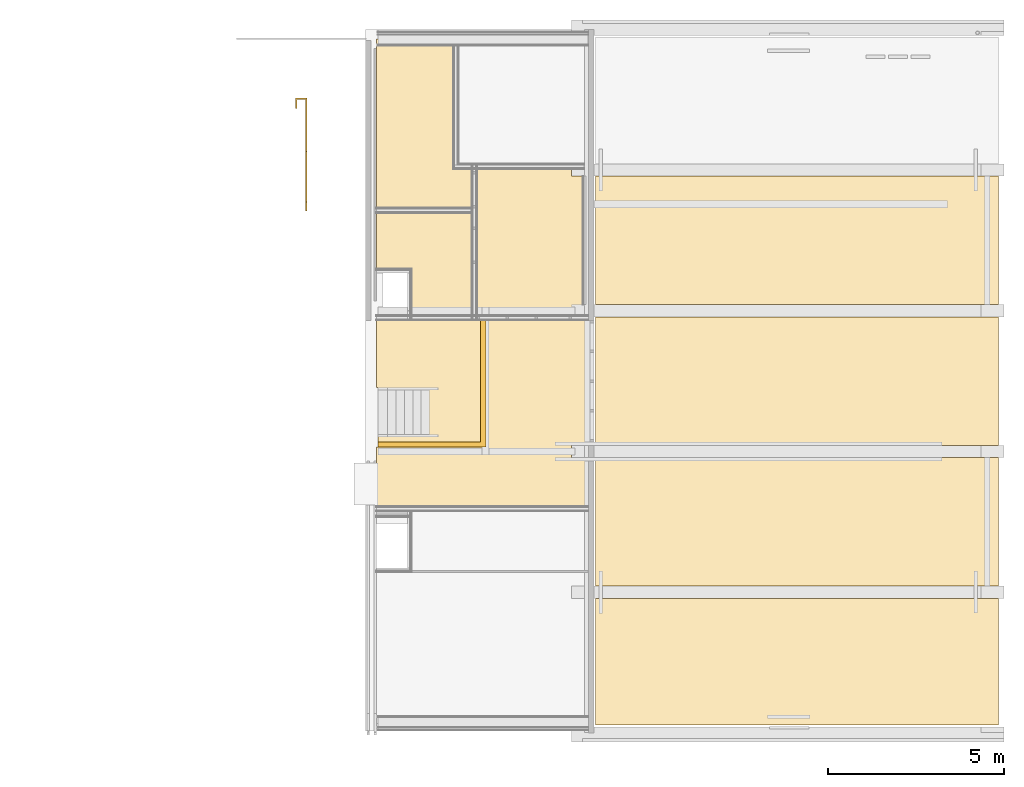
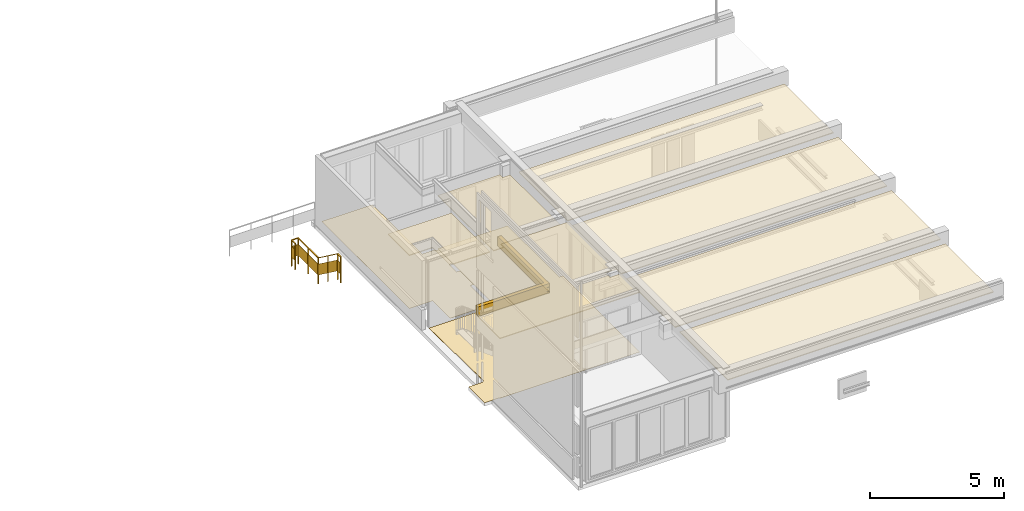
# One storey, part 11 of 13: 10 coverings, 1 railing.
"""IFC2X3 building model written with IfcOpenShell, lengths in millimetres."""

from ifc_helpers import new_model, entity, si_unit, converted_unit, derived_unit, money_unit, direction, frame, origin_with_axes, place, context, subcontext, project, spatial, faceted_brep, material, material_list, type_object, element, save


model = new_model("IFC2X3")

# Units and contexts
model_context = context("Model", 3, precision=0.01, world=origin_with_axes(), true_north=direction((0.0, 1.0)))
body_context = subcontext(model_context, "Body", "Model", "MODEL_VIEW")
ifc_project = project(units=[si_unit("LENGTHUNIT", "METRE", prefix="MILLI"), si_unit("AREAUNIT", "SQUARE_METRE"), si_unit("VOLUMEUNIT", "CUBIC_METRE"), converted_unit("PLANEANGLEUNIT", "DEGREE", entity("IfcPlaneAngleMeasure", 0.0174532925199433), si_unit("PLANEANGLEUNIT", "RADIAN"), dimensions=[0, 0, 0, 0, 0, 0, 0]), money_unit("EUR"), converted_unit("TIMEUNIT", "Year", entity("IfcTimeMeasure", 31557600.0), si_unit("TIMEUNIT", "SECOND"), dimensions=[0, 0, 1, 0, 0, 0, 0]), si_unit("MASSUNIT", "GRAM", prefix="KILO"), si_unit("THERMODYNAMICTEMPERATUREUNIT", "DEGREE_CELSIUS"), si_unit("LUMINOUSINTENSITYUNIT", "LUMEN"), si_unit("ENERGYUNIT", "JOULE", prefix="MEGA"), derived_unit("THERMALCONDUCTANCEUNIT", [(si_unit("POWERUNIT", "WATT"), 1), (si_unit("LENGTHUNIT", "METRE"), -1), (si_unit("THERMODYNAMICTEMPERATUREUNIT", "KELVIN"), -1)]), derived_unit("SPECIFICHEATCAPACITYUNIT", [(si_unit("ENERGYUNIT", "JOULE"), 1), (si_unit("MASSUNIT", "GRAM", prefix="KILO"), -1), (si_unit("THERMODYNAMICTEMPERATUREUNIT", "KELVIN"), -1)]), derived_unit("MASSDENSITYUNIT", [(si_unit("MASSUNIT", "GRAM", prefix="KILO"), 1), (si_unit("VOLUMEUNIT", "CUBIC_METRE"), -1)])], contexts=[model_context])

# Site, building, storey
site_placement = place(None, origin_with_axes())
site = spatial("IfcSite", under=ifc_project, at=site_placement, Name="<site naam>", CompositionType="ELEMENT")
building_placement = place(site_placement, origin_with_axes())
building = spatial("IfcBuilding", under=site, at=building_placement, Name="<Naam gebouw>", CompositionType="ELEMENT")
storey_placement = place(building_placement, frame((0.0, 0.0, 3188.0), z_axis=(0.0, 0.0, 1.0), x_axis=(1.0, 0.0, 0.0)))
storey = spatial("IfcBuildingStorey", under=building, at=storey_placement, Name="01 1e tussenverdieping", CompositionType="ELEMENT", Elevation=3188.0)

# Coverings
ifc_material_1 = material(Name="systeemplafond 600*600 kleur wit")
covering_type_1 = type_object("IfcCoveringType", Name="PA-01a 40", PredefinedType="CEILING")
covering_1_placement = place(storey_placement, frame((52135.00891048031, 14774.99071418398, 2400.0), z_axis=(0.0, 0.0, 1.0), x_axis=(1.0, 0.0, 0.0)))
element("IfcCovering", 1, at=covering_1_placement, inside=storey, type_object=covering_type_1, material=ifc_material_1, Name="45_Vloer_PA-01a", PredefinedType="CEILING", context=body_context, shape_type="Brep", body=[
    faceted_brep([(0.0, 0.0, 40.00000000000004), (0.0, 0.0, 0.0), (0.0, -1587.49071418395, 0.0), (0.0, -1587.49071418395, 40.00000000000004), (2714.802238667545, 0.0, 40.00000000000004), (2714.802238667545, 0.0, 0.0), (2714.802238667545, -2899.990677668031, 0.0), (1002.491089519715, -2899.990677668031, 0.0), (1002.491089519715, -1587.49071418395, 0.0), (1002.491089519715, -1587.49071418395, 40.00000000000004), (1002.491089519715, -2899.990677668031, 40.00000000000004), (2714.802238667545, -2899.990677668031, 40.00000000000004)], [[[0, 1, 2, 3]], [[4, 5, 1, 0]], [[2, 1, 5, 6, 7, 8]], [[3, 2, 8, 9]], [[4, 0, 3, 9, 10, 11]], [[11, 6, 5, 4]], [[10, 7, 6, 11]], [[9, 8, 7, 10]]]),
])
ifc_material_2 = material(Name="systeemplafond 600*600")
covering_type_2 = type_object("IfcCoveringType", Name="PA-01c 40", PredefinedType="CEILING")
covering_2_placement = place(storey_placement, frame((52135.00000877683, 6445.00000000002, 2700.0), z_axis=(0.0, 0.0, 1.0), x_axis=(1.0, 0.0, 0.0)))
element("IfcCovering", 2, at=covering_2_placement, inside=storey, type_object=covering_type_2, material=ifc_material_2, Name="45_Vloer_PA-01c", PredefinedType="CEILING", context=body_context, shape_type="Brep", body=[
    faceted_brep([(0.0, 0.0, 40.00000000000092), (0.0, 0.0, 0.0), (6022.782875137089, 0.0, 0.0), (6022.782875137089, 0.0, 40.00000000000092), (0.0, 1680.018641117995, 40.00000000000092), (0.0, 1680.018641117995, 0.0), (3109.621812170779, 1680.018551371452, 0.0), (3109.621812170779, 5280.000043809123, 0.0), (6022.782875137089, 5280.000043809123, 0.0), (6022.782875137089, 1730.000017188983, 0.0), (5539.999991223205, 1730.000017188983, 0.0), (5539.999991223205, 1379.999999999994, 0.0), (6022.782875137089, 1379.999999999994, 0.0), (6022.782875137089, 1379.999999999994, 40.00000000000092), (5539.999991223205, 1379.999999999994, 40.00000000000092), (5539.999991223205, 1730.000017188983, 40.00000000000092), (6022.782875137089, 1730.000017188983, 40.00000000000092), (6022.782875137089, 5280.000043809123, 40.00000000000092), (3109.621812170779, 5280.000043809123, 40.00000000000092), (3109.621812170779, 1680.018551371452, 40.00000000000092)], [[[0, 1, 2, 3]], [[4, 5, 1, 0]], [[2, 1, 5, 6, 7, 8, 9, 10, 11, 12]], [[3, 2, 12, 13]], [[4, 0, 3, 13, 14, 15, 16, 17, 18, 19]], [[19, 6, 5, 4]], [[18, 7, 6, 19]], [[17, 8, 7, 18]], [[16, 9, 8, 17]], [[15, 10, 9, 16]], [[14, 11, 10, 15]], [[13, 12, 11, 14]]]),
])
covering_3_placement = place(storey_placement, frame((54999.99989500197, 16024.99995671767, 2400.0), z_axis=(0.0, 0.0, 1.0), x_axis=(1.0, 0.0, 0.0)))
element("IfcCovering", 3, at=covering_3_placement, inside=storey, type_object=covering_type_2, material=ifc_material_2, Name="45_Vloer_PA-01c", PredefinedType="CEILING", context=body_context, shape_type="Brep", body=[
    faceted_brep([(0.0, 0.0, 40.00000000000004), (0.0, 0.0, 0.0), (0.0, -4149.999956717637, 0.0), (0.0, -4149.999956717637, 40.00000000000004), (2675.000086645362, 0.0, 40.00000000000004), (2675.000086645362, 0.0, 0.0), (2675.000086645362, -199.9999361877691, 0.0), (3000.000104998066, -199.9999361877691, 0.0), (3000.000104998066, -4149.999956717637, 0.0), (3000.000104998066, -4149.999956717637, 40.00000000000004), (3000.000104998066, -199.9999361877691, 40.00000000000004), (2675.000086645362, -199.9999361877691, 40.00000000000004)], [[[0, 1, 2, 3]], [[4, 5, 1, 0]], [[2, 1, 5, 6, 7, 8]], [[3, 2, 8, 9]], [[4, 0, 3, 9, 10, 11]], [[11, 6, 5, 4]], [[10, 7, 6, 11]], [[9, 8, 7, 10]]]),
])
ifc_material_3 = material(Name="geïntegreerd balvast lamellenplafond")
covering_type_3 = type_object("IfcCoveringType", Name="PA-04 40", PredefinedType="CEILING")
covering_4_placement = place(storey_placement, frame((69842.00005027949, 3825.000144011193, 2406.999999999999), z_axis=(0.0, 0.0, 1.0), x_axis=(1.0, 0.0, 0.0)))
element("IfcCovering", 4, at=covering_4_placement, inside=storey, type_object=covering_type_3, material=ifc_material_3, Name="45_Vloer_PA-04", PredefinedType="CEILING", context=body_context, shape_type="Brep", body=[
    faceted_brep([(-11474.56596596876, -3599.08941146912, 40.00000000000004), (-28.00010985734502, -3599.08941146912, 40.00000000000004), (-28.00010985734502, 0.0, 40.00000000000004), (-11474.56596596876, 0.0, 40.00000000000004), (-11474.56596596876, -3599.08941146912, 0.0), (-28.00010985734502, -3599.08941146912, 0.0), (-28.00010985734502, 0.0, 0.0), (-11474.56596596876, 0.0, 0.0)], [[[0, 1, 2, 3]], [[4, 5, 1, 0]], [[5, 6, 2, 1]], [[3, 2, 6, 7]], [[0, 3, 7, 4]], [[7, 6, 5, 4]]]),
])
covering_5_placement = place(storey_placement, frame((58367.43408431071, 4175.000039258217, 2406.999999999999), z_axis=(0.0, 0.0, 1.0), x_axis=(1.0, 0.0, 0.0)))
element("IfcCovering", 5, at=covering_5_placement, inside=storey, type_object=covering_type_3, material=ifc_material_3, Name="45_Vloer_PA-04", PredefinedType="CEILING", context=body_context, shape_type="Brep", body=[
    faceted_brep([(11446.56585611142, 3649.999951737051, 0.0), (9843.814427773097, 3649.999960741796, 0.0), (9843.814427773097, 3649.999960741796, 40.00000000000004), (11446.56585611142, 3649.999951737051, 40.00000000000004), (0.0, 3639.999960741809, 0.0), (9843.814427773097, 3639.999960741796, 0.0), (11446.56585611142, 0.0, 0.0), (0.0, 0.0, 0.0), (9843.814427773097, 3639.999960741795, 40.00000000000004), (0.0, 3639.999960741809, 40.00000000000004), (0.0, 0.0, 40.00000000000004), (11446.56585611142, 0.0, 40.00000000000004)], [[[0, 1, 2, 3]], [[4, 5, 1, 0, 6, 7]], [[5, 8, 2, 1]], [[2, 8, 9, 10, 11, 3]], [[11, 6, 0, 3]], [[4, 9, 8, 5]], [[10, 7, 6, 11]], [[10, 9, 4, 7]]]),
])
covering_6_placement = place(storey_placement, frame((58367.43408431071, 11825.00015635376, 2406.999999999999), z_axis=(0.0, 0.0, 1.0), x_axis=(1.0, 0.0, 0.0)))
element("IfcCovering", 6, at=covering_6_placement, inside=storey, type_object=covering_type_3, material=ifc_material_3, Name="45_Vloer_PA-04", PredefinedType="CEILING", context=body_context, shape_type="Brep", body=[
    faceted_brep([(0.0, -3640.000156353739, 40.00000000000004), (9843.814427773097, -3640.000156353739, 40.00000000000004), (9843.814427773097, -3650.000156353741, 40.00000000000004), (11446.56585611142, -3650.000132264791, 40.00000000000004), (11446.56585611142, 0.0, 40.00000000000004), (0.0, 0.0, 40.00000000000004), (9843.814427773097, -3640.000156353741, 0.0), (0.0, -3640.000156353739, 0.0), (9843.814427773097, -3650.000156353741, 0.0), (11446.56585611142, -3650.000132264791, 0.0), (11446.56585611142, 0.0, 0.0), (0.0, 0.0, 0.0)], [[[0, 1, 2, 3, 4, 5]], [[6, 1, 0, 7]], [[8, 2, 1, 6]], [[3, 2, 8, 9]], [[3, 9, 10, 4]], [[11, 5, 4, 10]], [[11, 7, 0, 5]], [[8, 6, 7, 11, 10, 9]]]),
])
covering_7_placement = place(storey_placement, frame((58367.43408431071, 12174.99997894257, 2406.999999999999), z_axis=(0.0, 0.0, 1.0), x_axis=(1.0, 0.0, 0.0)))
element("IfcCovering", 7, at=covering_7_placement, inside=storey, type_object=covering_type_3, material=ifc_material_3, Name="45_Vloer_PA-04", PredefinedType="CEILING", context=body_context, shape_type="Brep", body=[
    faceted_brep([(0.0, 0.0, 40.00000000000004), (11446.56585611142, 0.0, 40.00000000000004), (11446.56585611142, 3649.999951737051, 40.00000000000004), (0.0, 3649.999951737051, 40.00000000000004), (0.0, 0.0, 0.0), (11446.56585611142, 0.0, 0.0), (11446.56585611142, 3649.999951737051, 0.0), (0.0, 3649.999951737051, 0.0)], [[[0, 1, 2, 3]], [[4, 5, 1, 0]], [[5, 6, 2, 1]], [[3, 2, 6, 7]], [[0, 3, 7, 4]], [[7, 6, 5, 4]]]),
])
ifc_material_4 = material(Name="Vinyl type 01b")
covering_type_4 = type_object("IfcCoveringType", Name="VA-01b 3", PredefinedType="CEILING")
covering_8_placement = place(storey_placement, frame((51500.00006499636, 7675.000000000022, 0.0), z_axis=(0.0, 0.0, 1.0), x_axis=(1.0, 0.0, 0.0)))
element("IfcCovering", 8, at=covering_8_placement, inside=storey, type_object=covering_type_4, material=ifc_material_4, Name="43_Vloer_VA-01b", PredefinedType="CEILING", context=body_context, shape_type="Brep", body=[
    faceted_brep([(0.0, 0.0, 3.000000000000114), (0.0, 0.0, 0.0), (0.0, -1200.000000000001, 0.0), (0.0, -1200.000000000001, 3.000000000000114), (634.9998527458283, 0.0, 3.000000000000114), (634.9998527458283, 0.0, 0.0), (634.9998527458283, 49.99996559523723, 0.0), (674.9999422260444, 49.99996559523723, 0.0), (674.9999422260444, 2139.999863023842, 0.0), (634.9998527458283, 2139.999863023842, 0.0), (634.9998527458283, 4049.999955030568, 0.0), (3499.999916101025, 4049.999955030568, 0.0), (3499.999916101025, 8350.000018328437, 0.0), (6499.999908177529, 8350.000018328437, 0.0), (6499.999908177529, 4500.000065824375, 0.0), (6657.782866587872, 4500.000065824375, 0.0), (6657.782866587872, -1229.999970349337, 0.0), (635.0000020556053, -1229.999970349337, 0.0), (635.0000020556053, -1200.000000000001, 0.0), (635.0000020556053, -1200.000000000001, 3.000000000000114), (635.0000020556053, -1229.999970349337, 3.000000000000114), (6657.782866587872, -1229.999970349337, 3.000000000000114), (6657.782866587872, 4500.000065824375, 3.000000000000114), (6499.999908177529, 4500.000065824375, 3.000000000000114), (6499.999908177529, 8350.000018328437, 3.000000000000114), (3499.999916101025, 8350.000018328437, 3.000000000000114), (3499.999916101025, 4049.999955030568, 3.000000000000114), (634.9998527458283, 4049.999955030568, 3.000000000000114), (634.9998527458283, 2139.999863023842, 3.000000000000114), (674.9999422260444, 2139.999863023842, 3.000000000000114), (674.9999422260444, 49.99996559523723, 3.000000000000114), (634.9998527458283, 49.99996559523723, 3.000000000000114)], [[[0, 1, 2, 3]], [[4, 5, 1, 0]], [[2, 1, 5, 6, 7, 8, 9, 10, 11, 12, 13, 14, 15, 16, 17, 18]], [[3, 2, 18, 19]], [[4, 0, 3, 19, 20, 21, 22, 23, 24, 25, 26, 27, 28, 29, 30, 31]], [[31, 6, 5, 4]], [[30, 7, 6, 31]], [[29, 8, 7, 30]], [[28, 9, 8, 29]], [[27, 10, 9, 28]], [[26, 11, 10, 27]], [[25, 12, 11, 26]], [[24, 13, 12, 25]], [[23, 14, 13, 24]], [[22, 15, 14, 23]], [[21, 16, 15, 22]], [[20, 17, 16, 21]], [[19, 18, 17, 20]]]),
])

# Railing
ifc_material_5 = material(Name="staal balustrade")
ifc_material_6 = material(Name="hout AFW")
ifc_material_list = material_list([ifc_material_5, ifc_material_5, ifc_material_5, ifc_material_5, ifc_material_5, ifc_material_5, ifc_material_5, ifc_material_5, ifc_material_5, ifc_material_6, ifc_material_5, ifc_material_6, ifc_material_5, ifc_material_6, ifc_material_5, ifc_material_6, ifc_material_5, ifc_material_6, ifc_material_5, ifc_material_6, ifc_material_5, ifc_material_6])
railing_type = type_object("IfcRailingType", Name="Railing Type", PredefinedType="NOTDEFINED")
railing_placement = place(storey_placement, frame((49810.00000000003, 17759.5, 0.0), z_axis=(0.0, 0.0, 1.0), x_axis=(1.0, 0.0, 0.0)))
element("IfcRailing", 9, at=railing_placement, inside=storey, type_object=railing_type, material=ifc_material_list, Name="34_Reling_", PredefinedType="NOTDEFINED", context=body_context, shape_type="Brep", body=[
    faceted_brep([(74.99999999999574, 10.00000000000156, -200.0000000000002), (24.99999999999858, 10.00000000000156, -200.0000000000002), (24.99999999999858, 10.00000000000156, 980.0000000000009), (74.99999999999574, 10.00000000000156, 980.0000000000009), (74.99999999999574, -10.00000000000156, -200.0000000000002), (24.99999999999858, -10.00000000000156, -200.0000000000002), (24.99999999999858, -10.00000000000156, 980.0000000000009), (74.99999999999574, -10.00000000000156, 980.0000000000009)], [[[0, 1, 2, 3]], [[0, 4, 5, 1]], [[1, 5, 6, 2]], [[3, 2, 6, 7]], [[4, 0, 3, 7]], [[5, 4, 7, 6]]]),
    faceted_brep([(24.99999999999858, 0.0, 1000.0), (24.99999999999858, 0.0, 970.0000000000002), (24.99999999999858, -10.00000000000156, 970.0000000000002), (24.99999999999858, -10.00000000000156, 1000.0), (74.99999999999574, 0.0, 1000.0), (74.99999999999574, 0.0, 970.0000000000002), (74.99999999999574, -10.00000000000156, 970.0000000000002), (74.99999999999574, -10.00000000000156, 1000.0)], [[[0, 1, 2, 3]], [[0, 4, 5, 1]], [[1, 5, 6, 2]], [[3, 2, 6, 7]], [[4, 0, 3, 7]], [[5, 4, 7, 6]]]),
    faceted_brep([(74.99999999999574, 274.9816293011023, -200.0000000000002), (24.99999999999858, 274.9816293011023, -200.0000000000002), (24.99999999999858, 274.9816293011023, 980.0000000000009), (74.99999999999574, 274.9816293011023, 980.0000000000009), (74.99999999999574, 254.9816293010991, -200.0000000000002), (24.99999999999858, 254.9816293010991, -200.0000000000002), (24.99999999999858, 254.9816293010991, 980.0000000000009), (74.99999999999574, 254.9816293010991, 980.0000000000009)], [[[0, 1, 2, 3]], [[0, 4, 5, 1]], [[1, 5, 6, 2]], [[3, 2, 6, 7]], [[4, 0, 3, 7]], [[5, 4, 7, 6]]]),
    faceted_brep([(340.0000000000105, 239.9816293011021, -200.0000000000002), (340.0000000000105, 289.9816293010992, -200.0000000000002), (340.0000000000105, 289.9816293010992, 980.0000000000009), (340.0000000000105, 239.9816293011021, 980.0000000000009), (320.0000000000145, 239.9816293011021, -200.0000000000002), (320.0000000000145, 289.9816293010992, -200.0000000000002), (320.0000000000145, 289.9816293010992, 980.0000000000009), (320.0000000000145, 239.9816293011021, 980.0000000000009)], [[[0, 1, 2, 3]], [[0, 4, 5, 1]], [[1, 5, 6, 2]], [[3, 2, 6, 7]], [[4, 0, 3, 7]], [[5, 4, 7, 6]]]),
    faceted_brep([(305.0000000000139, -1239.999999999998, -196.7100728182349), (355.0000000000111, -1239.999999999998, -196.7100728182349), (355.0000000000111, -1240.000000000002, 983.2899271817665), (305.0000000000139, -1240.000000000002, 983.2899271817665), (305.0000000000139, -1219.999999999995, -203.2899271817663), (355.0000000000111, -1219.999999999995, -203.2899271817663), (355.0000000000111, -1219.999999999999, 976.7100728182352), (305.0000000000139, -1219.999999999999, 976.7100728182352)], [[[0, 1, 2, 3]], [[0, 4, 5, 1]], [[1, 5, 6, 2]], [[3, 2, 6, 7]], [[4, 0, 3, 7]], [[5, 4, 7, 6]]]),
    faceted_brep([(305.0000000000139, -2680.000000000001, 865.7899271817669), (355.0000000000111, -2680.000000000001, 865.7899271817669), (355.0000000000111, -2680.000000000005, 2045.789927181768), (305.0000000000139, -2680.000000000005, 2045.789927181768), (305.0000000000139, -2660.000000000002, 859.2100728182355), (355.0000000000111, -2660.000000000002, 859.2100728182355), (355.0000000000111, -2660.000000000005, 2039.210072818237), (305.0000000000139, -2660.000000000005, 2039.210072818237)], [[[0, 1, 2, 3]], [[0, 4, 5, 1]], [[1, 5, 6, 2]], [[3, 2, 6, 7]], [[4, 0, 3, 7]], [[5, 4, 7, 6]]]),
    faceted_brep([(305.0000000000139, -2920.0, 862.5000000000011), (355.0000000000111, -2920.0, 862.5000000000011), (355.0000000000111, -2920.0, 2042.500000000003), (305.0000000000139, -2920.0, 2042.500000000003), (305.0000000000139, -2900.0, 862.5000000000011), (355.0000000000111, -2900.0, 862.5000000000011), (355.0000000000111, -2900.0, 2042.500000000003), (305.0000000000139, -2900.0, 2042.500000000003)], [[[0, 1, 2, 3]], [[0, 4, 5, 1]], [[1, 5, 6, 2]], [[3, 2, 6, 7]], [[4, 0, 3, 7]], [[5, 4, 7, 6]]]),
    faceted_brep([(305.0000000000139, -2910.0, 2062.5), (305.0000000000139, -2910.0, 2032.5), (305.0000000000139, -2920.0, 2032.5), (305.0000000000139, -2920.0, 2062.5), (355.0000000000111, -2910.0, 2062.5), (355.0000000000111, -2910.0, 2032.5), (355.0000000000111, -2920.0, 2032.5), (355.0000000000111, -2920.0, 2062.5)], [[[0, 1, 2, 3]], [[0, 4, 5, 1]], [[1, 5, 6, 2]], [[3, 2, 6, 7]], [[4, 0, 3, 7]], [[5, 4, 7, 6]]]),
    faceted_brep([(74.99999999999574, 0.0, 1000.0), (74.99999999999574, 0.0, 970.0000000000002), (74.99999999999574, 239.9816293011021, 970.0000000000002), (74.99999999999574, 239.9816293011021, 1000.0), (24.99999999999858, 0.0, 1000.0), (24.99999999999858, 0.0, 970.0000000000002), (24.99999999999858, 289.9816293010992, 970.0000000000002), (24.99999999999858, 289.9816293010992, 1000.0)], [[[0, 1, 2, 3]], [[0, 4, 5, 1]], [[1, 5, 6, 2]], [[3, 2, 6, 7]], [[4, 0, 3, 7]], [[5, 4, 7, 6]]]),
    faceted_brep([(39.99999999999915, 254.9816293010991, 200.0000000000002), (39.99999999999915, 10.00000000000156, 200.0000000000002), (39.99999999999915, 10.00000000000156, 700.0000000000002), (39.99999999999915, 254.9816293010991, 700.0000000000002), (59.99999999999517, 10.00000000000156, 200.0000000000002), (59.99999999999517, 254.9816293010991, 200.0000000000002), (59.99999999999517, 10.00000000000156, 700.0000000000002), (59.99999999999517, 254.9816293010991, 700.0000000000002)], [[[0, 1, 2, 3]], [[4, 1, 0, 5]], [[6, 2, 1, 4]], [[3, 2, 6, 7]], [[0, 3, 7, 5]], [[6, 4, 5, 7]]]),
    faceted_brep([(74.99999999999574, 239.9816293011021, 1000.0), (74.99999999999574, 239.9816293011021, 970.0000000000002), (305.0000000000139, 239.9816293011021, 970.0000000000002), (305.0000000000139, 239.9816293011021, 1000.0), (24.99999999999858, 289.9816293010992, 1000.0), (24.99999999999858, 289.9816293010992, 970.0000000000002), (355.0000000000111, 289.9816293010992, 970.0000000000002), (355.0000000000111, 289.9816293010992, 1000.0)], [[[0, 1, 2, 3]], [[0, 4, 5, 1]], [[1, 5, 6, 2]], [[3, 2, 6, 7]], [[4, 0, 3, 7]], [[5, 4, 7, 6]]]),
    faceted_brep([(320.0000000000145, 274.9816293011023, 200.0000000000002), (59.99999999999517, 274.9816293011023, 200.0000000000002), (59.99999999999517, 274.9816293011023, 700.0000000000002), (320.0000000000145, 274.9816293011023, 700.0000000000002), (59.99999999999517, 254.9816293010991, 200.0000000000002), (320.0000000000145, 254.9816293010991, 200.0000000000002), (59.99999999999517, 254.9816293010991, 700.0000000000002), (320.0000000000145, 254.9816293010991, 700.0000000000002)], [[[0, 1, 2, 3]], [[4, 1, 0, 5]], [[6, 2, 1, 4]], [[3, 2, 6, 7]], [[0, 3, 7, 5]], [[6, 4, 5, 7]]]),
    faceted_brep([(305.0000000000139, 239.9816293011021, 1000.0), (305.0000000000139, 239.9816293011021, 970.0000000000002), (305.0000000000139, -1239.869781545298, 970.0000000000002), (305.0000000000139, -1230.0, 1000.0), (355.0000000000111, 289.9816293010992, 1000.0), (355.0000000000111, 289.9816293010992, 970.0000000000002), (355.0000000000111, -1239.869781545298, 970.0000000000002), (355.0000000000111, -1230.0, 1000.0)], [[[0, 1, 2, 3]], [[0, 4, 5, 1]], [[1, 5, 6, 2]], [[3, 2, 6, 7]], [[4, 0, 3, 7]], [[5, 4, 7, 6]]]),
    faceted_brep([(340.0000000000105, -472.5091853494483, 200.0000000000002), (340.0000000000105, 254.9816293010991, 200.0000000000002), (340.0000000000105, 254.9816293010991, 700.0000000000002), (340.0000000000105, -472.5091853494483, 700.0000000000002), (320.0000000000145, 254.9816293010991, 200.0000000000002), (320.0000000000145, -472.5091853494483, 200.0000000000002), (320.0000000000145, 254.9816293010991, 700.0000000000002), (320.0000000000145, -472.5091853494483, 700.0000000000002)], [[[0, 1, 2, 3]], [[4, 1, 0, 5]], [[6, 2, 1, 4]], [[3, 2, 6, 7]], [[0, 3, 7, 5]], [[6, 4, 5, 7]]]),
    faceted_brep([(305.0000000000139, -487.5091853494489, -200.0000000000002), (355.0000000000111, -487.5091853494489, -200.0000000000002), (355.0000000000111, -487.5091853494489, 1000.0), (305.0000000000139, -487.5091853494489, 1000.0), (305.0000000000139, -477.5091853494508, -200.0000000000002), (355.0000000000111, -477.5091853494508, -200.0000000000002), (355.0000000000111, -477.5091853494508, 1000.0), (305.0000000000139, -477.5091853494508, 1000.0)], [[[0, 1, 2, 3]], [[0, 4, 5, 1]], [[1, 5, 6, 2]], [[3, 2, 6, 7]], [[4, 0, 3, 7]], [[5, 4, 7, 6]]]),
    faceted_brep([(340.0000000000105, -1219.999999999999, 200.0000000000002), (340.0000000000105, -492.5091853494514, 200.0000000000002), (340.0000000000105, -492.5091853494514, 700.0000000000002), (340.0000000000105, -1219.999999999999, 700.0000000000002), (320.0000000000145, -492.5091853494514, 200.0000000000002), (320.0000000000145, -1219.999999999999, 200.0000000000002), (320.0000000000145, -492.5091853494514, 700.0000000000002), (320.0000000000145, -1219.999999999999, 700.0000000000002)], [[[0, 1, 2, 3]], [[4, 1, 0, 5]], [[6, 2, 1, 4]], [[3, 2, 6, 7]], [[0, 3, 7, 5]], [[6, 4, 5, 7]]]),
    faceted_brep([(305.0000000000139, -1230.0, 1000.000000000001), (305.0000000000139, -1239.869781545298, 970.0000000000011), (305.0000000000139, -2679.869781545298, 2032.500000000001), (305.0000000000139, -2670.000000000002, 2062.5), (355.0000000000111, -1230.0, 1000.000000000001), (355.0000000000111, -1239.869781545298, 970.0000000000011), (355.0000000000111, -2679.869781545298, 2032.500000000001), (355.0000000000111, -2670.000000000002, 2062.5)], [[[0, 1, 2, 3]], [[0, 4, 5, 1]], [[1, 5, 6, 2]], [[3, 2, 6, 7]], [[4, 0, 3, 7]], [[5, 4, 7, 6]]]),
    faceted_brep([(340.0000000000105, -1940.0, 723.8715277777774), (340.0000000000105, -1239.999999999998, 207.3784722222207), (340.0000000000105, -1239.999999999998, 707.3784722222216), (340.0000000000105, -1940.0, 1223.871527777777), (320.0000000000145, -1239.999999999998, 207.3784722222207), (320.0000000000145, -1940.0, 723.8715277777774), (320.0000000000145, -1239.999999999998, 707.3784722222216), (320.0000000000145, -1940.0, 1223.871527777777)], [[[0, 1, 2, 3]], [[4, 1, 0, 5]], [[6, 2, 1, 4]], [[3, 2, 6, 7]], [[0, 3, 7, 5]], [[6, 4, 5, 7]]]),
    faceted_brep([(305.0000000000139, -1955.0, 334.9392361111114), (355.0000000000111, -1955.0, 334.9392361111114), (355.0000000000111, -1955.0, 1534.939236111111), (305.0000000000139, -1955.0, 1534.939236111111), (305.0000000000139, -1944.999999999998, 327.5607638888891), (355.0000000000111, -1944.999999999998, 327.5607638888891), (355.0000000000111, -1944.999999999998, 1527.560763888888), (305.0000000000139, -1944.999999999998, 1527.560763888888)], [[[0, 1, 2, 3]], [[0, 4, 5, 1]], [[1, 5, 6, 2]], [[3, 2, 6, 7]], [[4, 0, 3, 7]], [[5, 4, 7, 6]]]),
    faceted_brep([(340.0000000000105, -2660.0, 1255.121527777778), (340.0000000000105, -1959.999999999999, 738.6284722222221), (340.0000000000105, -1959.999999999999, 1238.628472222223), (340.0000000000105, -2660.0, 1755.121527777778), (320.0000000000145, -1959.999999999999, 738.6284722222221), (320.0000000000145, -2660.0, 1255.121527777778), (320.0000000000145, -1959.999999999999, 1238.628472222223), (320.0000000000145, -2660.0, 1755.121527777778)], [[[0, 1, 2, 3]], [[4, 1, 0, 5]], [[6, 2, 1, 4]], [[3, 2, 6, 7]], [[0, 3, 7, 5]], [[6, 4, 5, 7]]]),
    faceted_brep([(305.0000000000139, -2670.000000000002, 2062.5), (305.0000000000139, -2679.869781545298, 2032.5), (305.0000000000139, -2910.0, 2032.5), (305.0000000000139, -2910.0, 2062.5), (355.0000000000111, -2670.000000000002, 2062.5), (355.0000000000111, -2679.869781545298, 2032.5), (355.0000000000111, -2910.0, 2032.5), (355.0000000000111, -2910.0, 2062.5)], [[[0, 1, 2, 3]], [[0, 4, 5, 1]], [[1, 5, 6, 2]], [[3, 2, 6, 7]], [[4, 0, 3, 7]], [[5, 4, 7, 6]]]),
    faceted_brep([(340.0000000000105, -2900.0, 1262.500000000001), (340.0000000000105, -2680.000000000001, 1262.500000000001), (340.0000000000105, -2680.000000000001, 1762.500000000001), (340.0000000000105, -2900.0, 1762.500000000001), (320.0000000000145, -2680.000000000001, 1262.500000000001), (320.0000000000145, -2900.0, 1262.500000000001), (320.0000000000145, -2680.000000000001, 1762.500000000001), (320.0000000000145, -2900.0, 1762.500000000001)], [[[0, 1, 2, 3]], [[4, 1, 0, 5]], [[6, 2, 1, 4]], [[3, 2, 6, 7]], [[0, 3, 7, 5]], [[6, 4, 5, 7]]]),
])

# Coverings
ifc_material_7 = material(Name="Vinyl type 01a")
covering_type_5 = type_object("IfcCoveringType", Name="VA-01a 3", PredefinedType="CEILING")
covering_9_placement = place(storey_placement, frame((52135.00005410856, 19730.99999999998, 0.0), z_axis=(0.0, 0.0, 1.0), x_axis=(1.0, 0.0, 0.0)))
element("IfcCovering", 10, at=covering_9_placement, inside=storey, type_object=covering_type_5, material=ifc_material_7, Name="43_Vloer_VA-01a", PredefinedType="CEILING", context=body_context, shape_type="Brep", body=[
    faceted_brep([(0.0, 0.0, 3.000000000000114), (0.0, 0.0, 0.0), (0.0, -6543.499999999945, 0.0), (0.0, -6543.499999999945, 3.000000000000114), (2189.17999557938, 0.0, 3.000000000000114), (2189.17999557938, 0.0, 0.0), (2189.17999557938, -3706.075594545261, 0.0), (2714.990735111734, -3706.075594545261, 0.0), (2714.990735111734, -3772.009262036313, 0.0), (2864.737771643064, -3772.009262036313, 0.0), (2864.737771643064, -4804.304861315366, 0.0), (2714.990735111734, -4804.304861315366, 0.0), (2714.990735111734, -5356.009285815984, 0.0), (2864.835862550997, -5356.009285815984, 0.0), (2864.835862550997, -6390.009281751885, 0.0), (2714.990735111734, -6390.009281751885, 0.0), (2714.990735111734, -7856.000046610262, 0.0), (1002.499945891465, -7856.000046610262, 0.0), (1002.499945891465, -6543.499999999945, 0.0), (1002.499945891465, -6543.499999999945, 3.000000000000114), (1002.499945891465, -7856.000046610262, 3.000000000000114), (2714.990735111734, -7856.000046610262, 3.000000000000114), (2714.990735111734, -6390.009281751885, 3.000000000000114), (2864.835862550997, -6390.009281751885, 3.000000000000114), (2864.835862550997, -5356.009285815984, 3.000000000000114), (2714.990735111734, -5356.009285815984, 3.000000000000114), (2714.990735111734, -4804.304861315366, 3.000000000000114), (2864.737771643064, -4804.304861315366, 3.000000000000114), (2864.737771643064, -3772.009262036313, 3.000000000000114), (2714.990735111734, -3772.009262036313, 3.000000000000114), (2714.990735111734, -3706.075594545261, 3.000000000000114), (2189.17999557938, -3706.075594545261, 3.000000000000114)], [[[0, 1, 2, 3]], [[4, 5, 1, 0]], [[2, 1, 5, 6, 7, 8, 9, 10, 11, 12, 13, 14, 15, 16, 17, 18]], [[3, 2, 18, 19]], [[4, 0, 3, 19, 20, 21, 22, 23, 24, 25, 26, 27, 28, 29, 30, 31]], [[31, 6, 5, 4]], [[30, 7, 6, 31]], [[29, 8, 7, 30]], [[28, 9, 8, 29]], [[27, 10, 9, 28]], [[26, 11, 10, 27]], [[25, 12, 11, 26]], [[24, 13, 12, 25]], [[23, 14, 13, 24]], [[22, 15, 14, 23]], [[21, 16, 15, 22]], [[20, 17, 16, 21]], [[19, 18, 17, 20]]]),
])
ifc_material_8 = material(Name="koven gips")
covering_type_6 = type_object("IfcCoveringType", Name="koven gips 427", PredefinedType="CEILING")
covering_10_placement = place(storey_placement, frame((55094.62178222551, 11725.00005584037, 3127.0), z_axis=(0.0, 0.0, 1.0), x_axis=(1.0, 0.0, 0.0)))
element("IfcCovering", 11, at=covering_10_placement, inside=storey, type_object=covering_type_6, material=ifc_material_8, Name="45_Vloer_koven", PredefinedType="CEILING", context=body_context, shape_type="Brep", body=[
    faceted_brep([(149.9582094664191, -3599.981464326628, 0.0), (149.9582094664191, -3599.981464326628, -149.9860302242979), (149.9582094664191, 0.0, -149.9860302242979), (149.9582094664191, 0.0, 0.0), (47.47657299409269, -3599.981464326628, -164.9860376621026), (47.47657283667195, -3599.981464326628, -149.9860302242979), (-2919.621782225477, -3599.981464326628, 0.0), (-2919.621782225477, -3599.981464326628, -426.9999999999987), (149.9582094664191, -3599.981464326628, -426.9999999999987), (149.9582094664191, -3599.981464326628, -349.9860387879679), (47.47657283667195, -3599.981464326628, -349.9860387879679), (47.47657283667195, -3599.981464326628, -334.9860313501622), (142.9765760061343, -3599.981464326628, -334.9860313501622), (142.9765760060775, -3599.981464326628, -164.9860376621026), (47.47657283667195, 0.0, -149.9860302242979), (47.47657283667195, 0.0, -334.9860313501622), (47.47657283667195, 0.0, -349.9860387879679), (149.9582094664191, 0.0, -349.9860387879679), (149.9582094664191, 0.0, -426.9999999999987), (0.0, 0.0, -426.9999999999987), (0.0, 0.0, 0.0), (47.47657299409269, 0.0, -164.9860376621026), (142.976576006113, 0.0, -164.9860376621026), (142.9765760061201, 0.0, -334.9860313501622), (3.028858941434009e-06, -3450.000055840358, 0.0), (-2919.621782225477, -3450.000055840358, 0.0), (-2919.621782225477, -3450.000055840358, -426.9999999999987), (3.028858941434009e-06, -3450.000055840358, -426.9999999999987)], [[[0, 1, 2, 3]], [[4, 5, 1, 0, 6, 7, 8, 9, 10, 11, 12, 13]], [[5, 14, 2, 1]], [[15, 16, 17, 18, 19, 20, 3, 2, 14, 21, 22, 23]], [[0, 3, 20, 24, 25, 6]], [[4, 21, 14, 5]], [[6, 25, 26, 7]], [[26, 27, 19, 18, 8, 7]], [[18, 17, 9, 8]], [[10, 9, 17, 16]], [[10, 16, 15, 11]], [[11, 15, 23, 12]], [[12, 23, 22, 13]], [[13, 22, 21, 4]], [[24, 20, 19, 27]], [[25, 24, 27, 26]]]),
])

save(model, "model.ifc")
